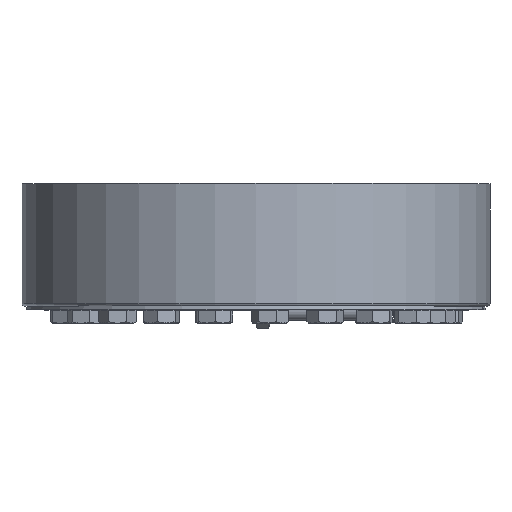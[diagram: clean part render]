
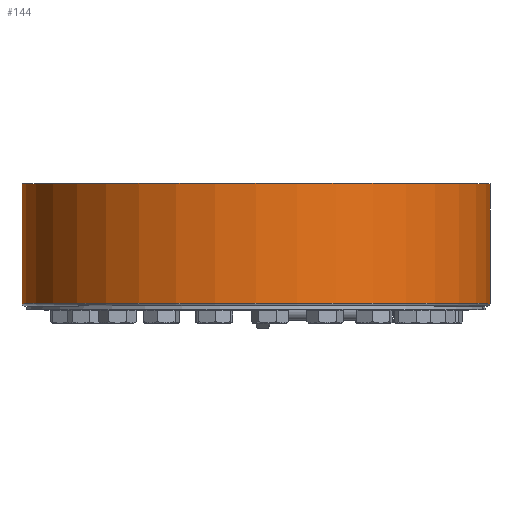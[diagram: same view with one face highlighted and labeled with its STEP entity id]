
A CAD part, top view. The second image highlights one B-rep face of the part: STEP entity #144.
In plain terms, the highlighted cylindrical face has radius 260 mm (diameter 520 mm), a full revolution.
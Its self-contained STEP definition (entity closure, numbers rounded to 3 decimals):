
#144 = ADVANCED_FACE( '', ( #357, #358 ), #359, .T. );
#357 = FACE_OUTER_BOUND( '', #588, .T. );
#358 = FACE_OUTER_BOUND( '', #589, .T. );
#359 = CYLINDRICAL_SURFACE( '', #590, 260. );
#588 = EDGE_LOOP( '', ( #974 ) );
#589 = EDGE_LOOP( '', ( #975 ) );
#590 = AXIS2_PLACEMENT_3D( '', #976, #977, #978 );
#974 = ORIENTED_EDGE( '', *, *, #1075, .T. );
#975 = ORIENTED_EDGE( '', *, *, #1131, .T. );
#976 = CARTESIAN_POINT( '', ( 0., -60., 0. ) );
#977 = DIRECTION( '', ( 0., 1., 0. ) );
#978 = DIRECTION( '', ( 0., 0., -1. ) );
#1075 = EDGE_CURVE( '', #1263, #1263, #1264, .F. );
#1131 = EDGE_CURVE( '', #1359, #1359, #1360, .T. );
#1263 = VERTEX_POINT( '', #1619 );
#1264 = CIRCLE( '', #1620, 260. );
#1359 = VERTEX_POINT( '', #1732 );
#1360 = CIRCLE( '', #1733, 260. );
#1619 = CARTESIAN_POINT( '', ( 0., 7., -260. ) );
#1620 = AXIS2_PLACEMENT_3D( '', #1879, #1880, #1881 );
#1732 = CARTESIAN_POINT( '', ( 0., 140., -260. ) );
#1733 = AXIS2_PLACEMENT_3D( '', #1983, #1984, #1985 );
#1879 = CARTESIAN_POINT( '', ( 0., 7., 0. ) );
#1880 = DIRECTION( '', ( 0., -1., 0. ) );
#1881 = DIRECTION( '', ( 0., 0., -1. ) );
#1983 = CARTESIAN_POINT( '', ( 0., 140., 0. ) );
#1984 = DIRECTION( '', ( 0., -1., 0. ) );
#1985 = DIRECTION( '', ( 0., 0., -1. ) );
